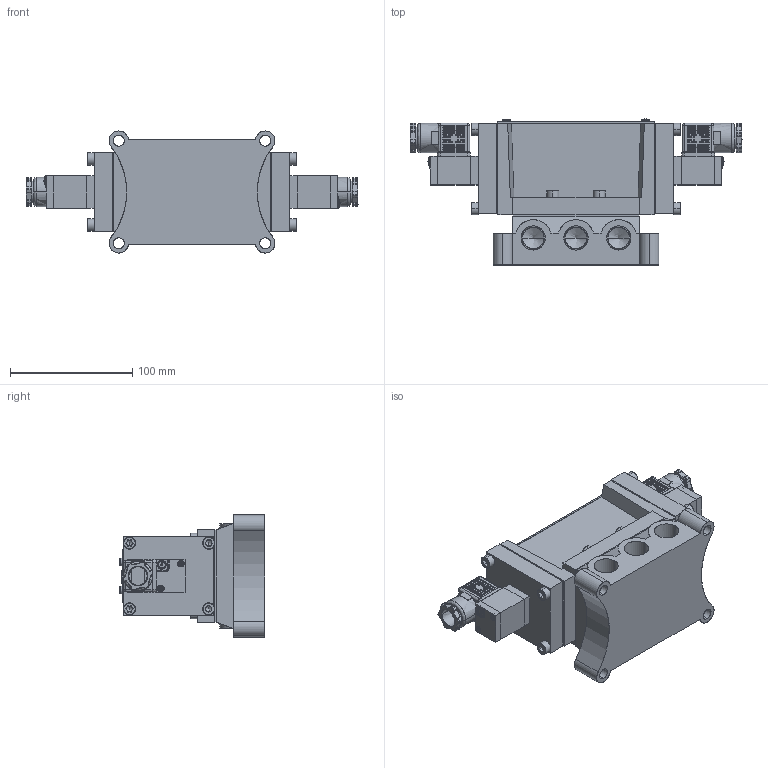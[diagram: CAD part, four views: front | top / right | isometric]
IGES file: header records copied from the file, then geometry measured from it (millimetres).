
Start section: SolidWorks IGES file using analytic representation for surfaces
Global section: file name: D:\Custom\3D繪製\PM\PM15\PMD2415#-04-#C#.IGS,1; native system: 5HSolidWorks 2014; preprocessor: SolidWorks 2014; author: Chieh_Lu; date: 151215.222235; units: millimetre
Bounding box: 272 x 119.55 x 100 mm (x, y, z)
Surface area: 216085.2 mm2 (no closed solid volume)
Topology: 0 solids, 0 shells, 1745 faces, 15761 edges, 15459 vertices
Faces by surface type: revolution 920, bspline 825
